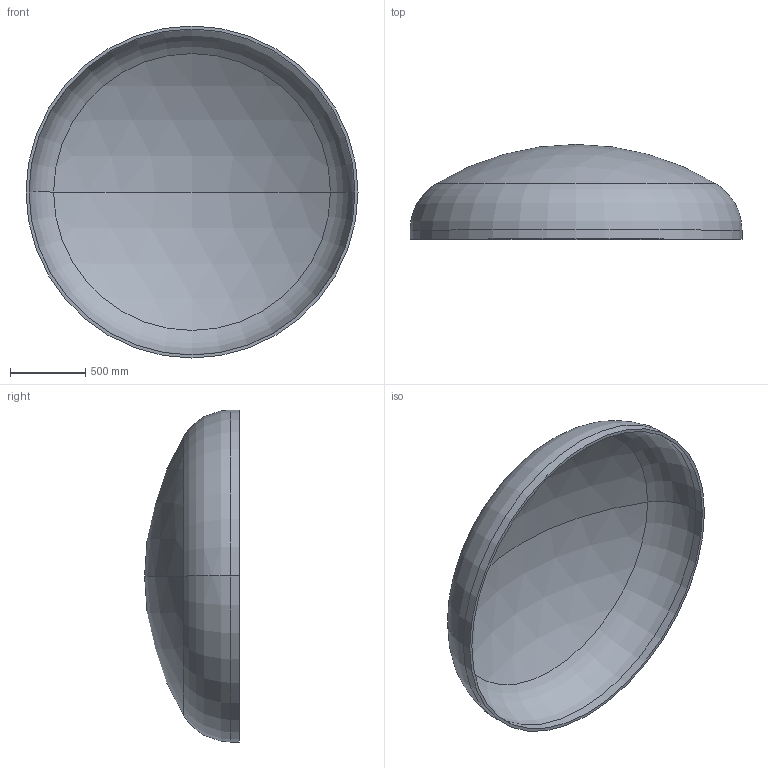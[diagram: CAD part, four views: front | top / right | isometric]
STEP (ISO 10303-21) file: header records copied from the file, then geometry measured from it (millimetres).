
FILE_DESCRIPTION (( 'STEP AP203' ), '1' );
FILE_NAME ('DIN 28013 Korbbogenform_-_Boden DIN 28013 - 2200 x 60 - I - s=20.step', '2016-07-01T14:24:25', ( '' ), ( '' ), 'SwSTEP 2.0', 'SolidWorks 2013', '' );
FILE_SCHEMA (( 'CONFIG_CONTROL_DESIGN' ));
Length unit declared in the file: millimetre
Products named in the file (1): DIN 28013 Korbbogenform_-_Boden DIN 28013 - 2200 x 60 - I - s=20
Bounding box: 2200 x 628.06 x 2200 mm (x, y, z)
Volume: 112328135.4 mm3; surface area: 11370620.5 mm2
Topology: 1 solids, 1 shells, 13 faces, 24 edges, 14 vertices
Faces by surface type: torus 4, cylinder 4, sphere 4, plane 1
Entity records: 407 total; most frequent: DIRECTION 72, CARTESIAN_POINT 52, ORIENTED_EDGE 48, AXIS2_PLACEMENT_3D 34, EDGE_CURVE 24, CIRCLE 20, EDGE_LOOP 14, VERTEX_POINT 14
